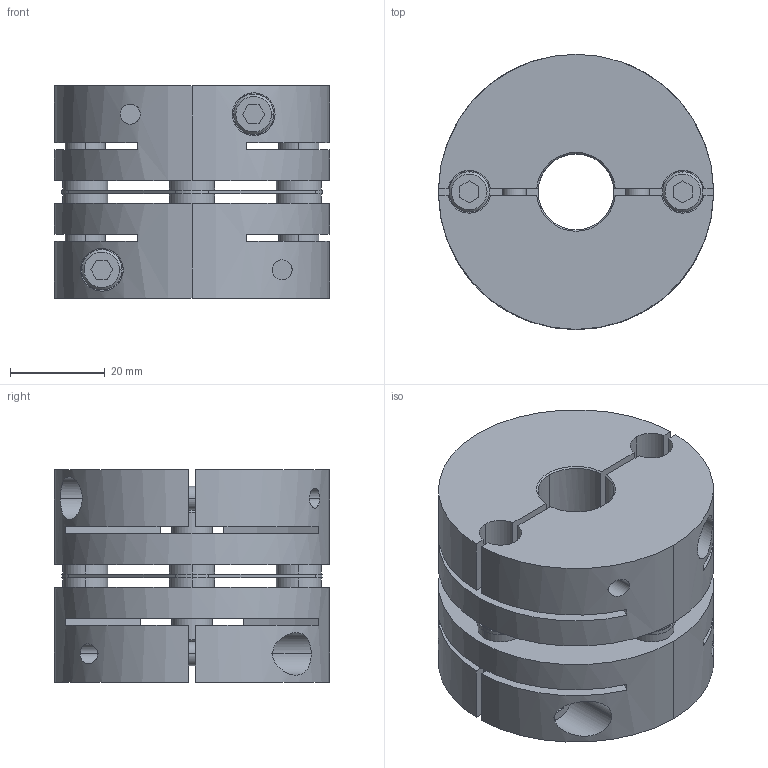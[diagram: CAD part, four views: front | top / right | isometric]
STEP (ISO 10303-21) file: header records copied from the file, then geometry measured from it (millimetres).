
FILE_DESCRIPTION((''),'2;1');
FILE_NAME('LAS-58C-16×24.stp','2011-08-09T15:29:25',(''),(''),'AutoCAD STEP 2000i','AutoCAD 2000i',', , ');
FILE_SCHEMA(('CONFIG_CONTROL_DESIGN'));
Length unit declared in the file: millimetre
Products named in the file (6): LAS-58C-12×19; 忣兜1; LA-5802-D19; LA-5802-D12-1; LA-5802-D12; LAS58-ITA
Assembly tree (5 placements, depth 2):
  LAS-58C-12×19
    忣兜1
    LA-5802-D19
    LA-5802-D12-1
    LA-5802-D12
    LAS58-ITA
Bounding box: 58 x 58 x 44.8 mm (x, y, z)
Volume: 83648.5 mm3; surface area: 32860.7 mm2
Topology: 1 solids, 1 shells, 238 faces, 618 edges, 404 vertices
Faces by surface type: plane 114, cylinder 96, cone 28
Entity records: 8213 total; most frequent: CARTESIAN_POINT 1988, DIRECTION 1316, ORIENTED_EDGE 1240, EDGE_CURVE 620, AXIS2_PLACEMENT_3D 484, VERTEX_POINT 404, VECTOR 348, LINE 348
